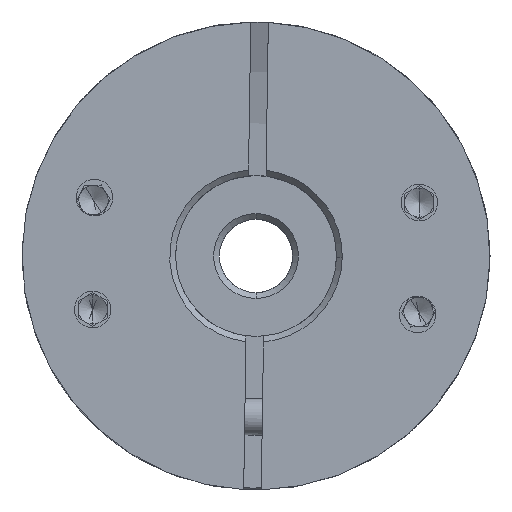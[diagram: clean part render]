
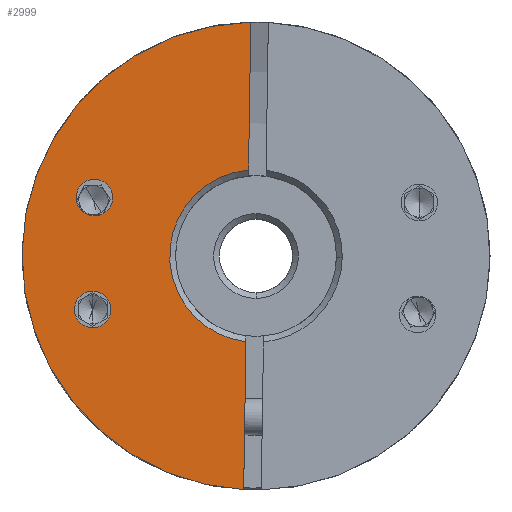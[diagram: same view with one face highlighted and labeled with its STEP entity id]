
A CAD part, front view. The second image highlights one B-rep face of the part: STEP entity #2999.
In plain terms, the highlighted planar face has unit normal (0, -1, 0).
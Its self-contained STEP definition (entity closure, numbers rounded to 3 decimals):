
#81 = CARTESIAN_POINT ( 'NONE',  ( -59.689, -19.411, 5.878 ) ) ;
#213 = DIRECTION ( 'NONE',  ( 0., 1., 0. ) ) ;
#443 = CARTESIAN_POINT ( 'NONE',  ( -70.345, -19.411, -3.656 ) ) ;
#477 = VECTOR ( 'NONE', #8268, 1000. ) ;
#621 = DIRECTION ( 'NONE',  ( 0., -1., 0. ) ) ;
#747 = DIRECTION ( 'NONE',  ( -0.015, 0., -1. ) ) ;
#1031 = DIRECTION ( 'NONE',  ( 0., -1., 0. ) ) ;
#1516 = ORIENTED_EDGE ( 'NONE', *, *, #15890, .T. ) ;
#1778 = ORIENTED_EDGE ( 'NONE', *, *, #19826, .T. ) ;
#1787 = AXIS2_PLACEMENT_3D ( 'NONE', #5328, #21931, #3464 ) ;
#2196 = DIRECTION ( 'NONE',  ( 0., 1., 0. ) ) ;
#2255 = AXIS2_PLACEMENT_3D ( 'NONE', #23412, #1031, #10974 ) ;
#2315 = VERTEX_POINT ( 'NONE', #81 ) ;
#2803 = VERTEX_POINT ( 'NONE', #6370 ) ;
#2999 = ADVANCED_FACE ( 'NONE', ( #4434, #6792, #12595 ), #5331, .T. ) ;
#3035 = CARTESIAN_POINT ( 'NONE',  ( -69.095, -19.411, -3.675 ) ) ;
#3209 = EDGE_CURVE ( 'NONE', #11450, #2315, #17297, .T. ) ;
#3380 = CARTESIAN_POINT ( 'NONE',  ( -59.178, -19.411, 0. ) ) ;
#3464 = DIRECTION ( 'NONE',  ( 1., 0., -0.015 ) ) ;
#3859 = CARTESIAN_POINT ( 'NONE',  ( -71.479, -19.411, 4.013 ) ) ;
#4382 = ORIENTED_EDGE ( 'NONE', *, *, #7891, .T. ) ;
#4434 = FACE_OUTER_BOUND ( 'NONE', #14916, .T. ) ;
#4531 = VERTEX_POINT ( 'NONE', #4645 ) ;
#4645 = CARTESIAN_POINT ( 'NONE',  ( -71.595, -19.411, -3.637 ) ) ;
#4661 = VERTEX_POINT ( 'NONE', #3035 ) ;
#5328 = CARTESIAN_POINT ( 'NONE',  ( -59.178, -19.411, 0. ) ) ;
#5331 = PLANE ( 'NONE',  #7014 ) ;
#5622 = CARTESIAN_POINT ( 'NONE',  ( -59.535, -19.411, 15.996 ) ) ;
#6054 = DIRECTION ( 'NONE',  ( 1., 0., -0.015 ) ) ;
#6370 = CARTESIAN_POINT ( 'NONE',  ( -68.979, -19.411, 3.975 ) ) ;
#6391 = CIRCLE ( 'NONE', #1787, 5.9 ) ;
#6792 = FACE_BOUND ( 'NONE', #18868, .T. ) ;
#6981 = CARTESIAN_POINT ( 'NONE',  ( -59.867, -19.411, -5.86 ) ) ;
#7014 = AXIS2_PLACEMENT_3D ( 'NONE', #3380, #16436, #7139 ) ;
#7139 = DIRECTION ( 'NONE',  ( 1., 0., -0.015 ) ) ;
#7180 = AXIS2_PLACEMENT_3D ( 'NONE', #14710, #9214, #24192 ) ;
#7422 = CIRCLE ( 'NONE', #16573, 1.25 ) ;
#7891 = EDGE_CURVE ( 'NONE', #19051, #21612, #14904, .T. ) ;
#8268 = DIRECTION ( 'NONE',  ( -0.015, 0., -1. ) ) ;
#8403 = EDGE_CURVE ( 'NONE', #9746, #2315, #6391, .T. ) ;
#9034 = ORIENTED_EDGE ( 'NONE', *, *, #19049, .T. ) ;
#9167 = ORIENTED_EDGE ( 'NONE', *, *, #8403, .T. ) ;
#9214 = DIRECTION ( 'NONE',  ( 0., 1., 0. ) ) ;
#9243 = VERTEX_POINT ( 'NONE', #3859 ) ;
#9456 = AXIS2_PLACEMENT_3D ( 'NONE', #11785, #621, #13565 ) ;
#9482 = CIRCLE ( 'NONE', #7180, 1.25 ) ;
#9491 = ORIENTED_EDGE ( 'NONE', *, *, #12120, .T. ) ;
#9746 = VERTEX_POINT ( 'NONE', #6981 ) ;
#9919 = CARTESIAN_POINT ( 'NONE',  ( -70.229, -19.411, 3.994 ) ) ;
#10328 = CIRCLE ( 'NONE', #9456, 16. ) ;
#10358 = LINE ( 'NONE', #17378, #477 ) ;
#10974 = DIRECTION ( 'NONE',  ( 1., 0., -0.015 ) ) ;
#11445 = CARTESIAN_POINT ( 'NONE',  ( -70.345, -19.411, -3.656 ) ) ;
#11450 = VERTEX_POINT ( 'NONE', #5622 ) ;
#11681 = DIRECTION ( 'NONE',  ( 0., 1., 0. ) ) ;
#11785 = CARTESIAN_POINT ( 'NONE',  ( -59.178, -19.411, 0. ) ) ;
#12120 = EDGE_CURVE ( 'NONE', #4661, #4531, #16107, .T. ) ;
#12595 = FACE_BOUND ( 'NONE', #22521, .T. ) ;
#13540 = DIRECTION ( 'NONE',  ( 1., 0., -0.015 ) ) ;
#13565 = DIRECTION ( 'NONE',  ( 1., 0., -0.015 ) ) ;
#14710 = CARTESIAN_POINT ( 'NONE',  ( -70.229, -19.411, 3.994 ) ) ;
#14870 = CARTESIAN_POINT ( 'NONE',  ( -75.176, -19.411, 0.243 ) ) ;
#14904 = CIRCLE ( 'NONE', #2255, 16. ) ;
#14916 = EDGE_LOOP ( 'NONE', ( #19181, #9167, #20188, #1516, #4382 ) ) ;
#15890 = EDGE_CURVE ( 'NONE', #11450, #19051, #10328, .T. ) ;
#16107 = CIRCLE ( 'NONE', #20072, 1.25 ) ;
#16436 = DIRECTION ( 'NONE',  ( 0., -1., 0. ) ) ;
#16573 = AXIS2_PLACEMENT_3D ( 'NONE', #9919, #2196, #19546 ) ;
#16710 = VECTOR ( 'NONE', #747, 1000. ) ;
#17297 = LINE ( 'NONE', #23065, #16710 ) ;
#17378 = CARTESIAN_POINT ( 'NONE',  ( -59.687, -19.411, 6.008 ) ) ;
#18488 = AXIS2_PLACEMENT_3D ( 'NONE', #443, #11681, #13540 ) ;
#18557 = EDGE_CURVE ( 'NONE', #9746, #21612, #10358, .T. ) ;
#18868 = EDGE_LOOP ( 'NONE', ( #1778, #9034 ) ) ;
#19049 = EDGE_CURVE ( 'NONE', #2803, #9243, #9482, .T. ) ;
#19051 = VERTEX_POINT ( 'NONE', #14870 ) ;
#19181 = ORIENTED_EDGE ( 'NONE', *, *, #18557, .F. ) ;
#19546 = DIRECTION ( 'NONE',  ( 1., 0., -0.015 ) ) ;
#19712 = CARTESIAN_POINT ( 'NONE',  ( -60.021, -19.411, -15.978 ) ) ;
#19826 = EDGE_CURVE ( 'NONE', #9243, #2803, #7422, .T. ) ;
#20072 = AXIS2_PLACEMENT_3D ( 'NONE', #11445, #213, #6054 ) ;
#20188 = ORIENTED_EDGE ( 'NONE', *, *, #3209, .F. ) ;
#20765 = ORIENTED_EDGE ( 'NONE', *, *, #20983, .T. ) ;
#20983 = EDGE_CURVE ( 'NONE', #4531, #4661, #23490, .T. ) ;
#21612 = VERTEX_POINT ( 'NONE', #19712 ) ;
#21931 = DIRECTION ( 'NONE',  ( 0., 1., 0. ) ) ;
#22521 = EDGE_LOOP ( 'NONE', ( #20765, #9491 ) ) ;
#23065 = CARTESIAN_POINT ( 'NONE',  ( -59.687, -19.411, 6.008 ) ) ;
#23412 = CARTESIAN_POINT ( 'NONE',  ( -59.178, -19.411, 0. ) ) ;
#23490 = CIRCLE ( 'NONE', #18488, 1.25 ) ;
#24192 = DIRECTION ( 'NONE',  ( 1., 0., -0.015 ) ) ;
